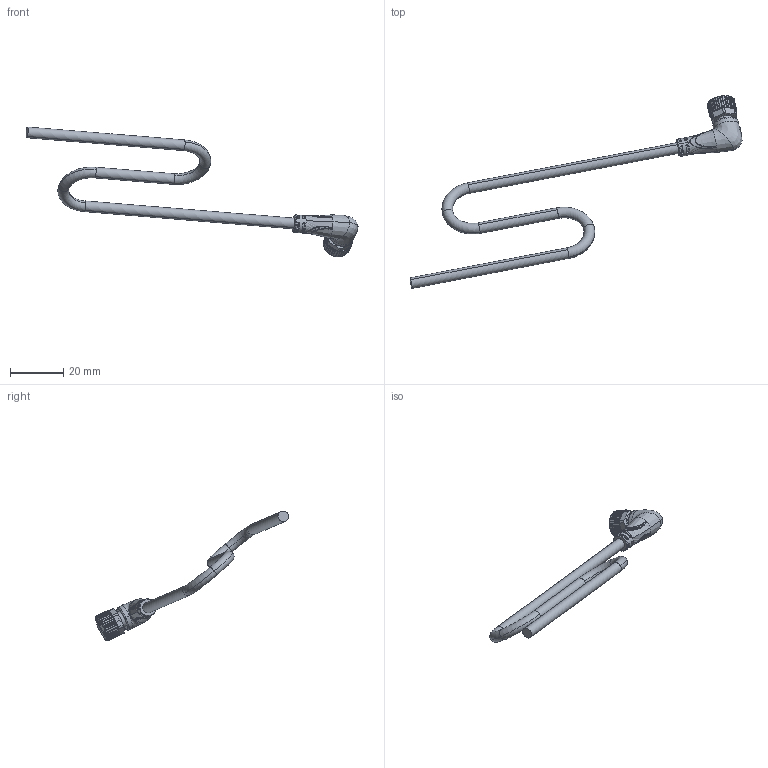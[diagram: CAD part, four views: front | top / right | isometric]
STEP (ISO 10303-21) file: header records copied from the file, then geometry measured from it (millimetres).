
FILE_DESCRIPTION (( 'STEP AP214' ), '1' );
FILE_NAME ('M8俔芛3P譫傷.STEP', '2024-12-19T01:28:04', ( 'Windows User' ), ( 'P R C' ), 'SwSTEP 2.0', 'SolidWorks 2023', '' );
FILE_SCHEMA (( 'AUTOMOTIVE_DESIGN' ));
Length unit declared in the file: millimetre
Products named in the file (7): SD1705293-M8-3P母端插座-A0; M8-90°包胶-A1_4; 密封圈; M8弯头3P母端; SD1100822-M8滚花螺母（内螺纹对边9）-B0 带退刀槽; SD1705297-M8母端插针-A0; 导线_φ4.0
Assembly tree (8 placements, depth 2):
  M8弯头3P母端
    M8-90°包胶-A1_4
    SD1100822-M8滚花螺母（内螺纹对边9）-B0 带退刀槽
    SD1705293-M8-3P母端插座-A0
    SD1705297-M8母端插针-A0  x3
    导线_φ4.0
    密封圈
Bounding box: 124.29 x 72.22 x 48.64 mm (x, y, z)
Volume: 4844 mm3; surface area: 5552.7 mm2
Topology: 8 solids, 8 shells, 1372 faces, 3688 edges, 2324 vertices
Faces by surface type: plane 551, cylinder 360, cone 210, bspline 190, torus 61
Entity records: 42434 total; most frequent: CARTESIAN_POINT 22392, ORIENTED_EDGE 4652, DIRECTION 3487, EDGE_CURVE 2326, VERTEX_POINT 1488, AXIS2_PLACEMENT_3D 1298, EDGE_LOOP 898, VECTOR 891
